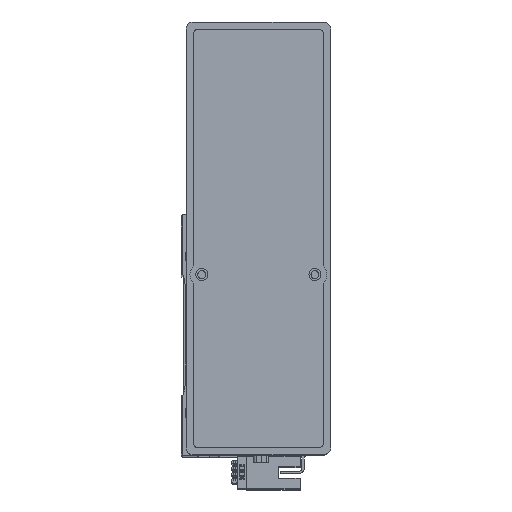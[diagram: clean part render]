
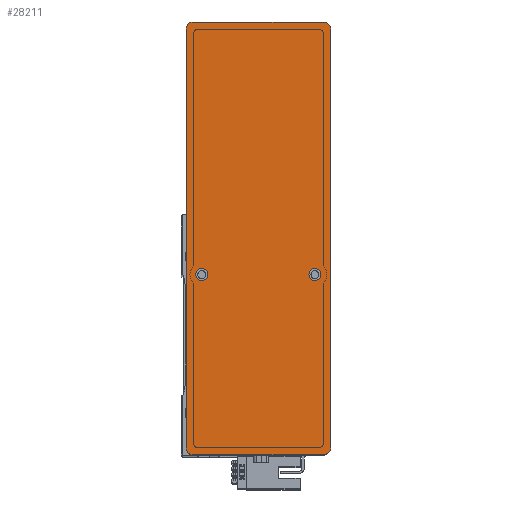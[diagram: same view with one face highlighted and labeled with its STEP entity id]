
A CAD part, top view. The second image highlights one B-rep face of the part: STEP entity #28211.
In plain terms, the highlighted planar face has unit normal (0, 0, 1) as drawn and (0, 0, -1) by its records, which use the part's own axes.
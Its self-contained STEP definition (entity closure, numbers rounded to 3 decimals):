
#87 = LINE ( 'NONE', #1441, #16035 ) ;
#126 = CARTESIAN_POINT ( 'NONE',  ( -90., 27., 0. ) ) ;
#291 = DIRECTION ( 'NONE',  ( 1., 0., 0. ) ) ;
#1441 = CARTESIAN_POINT ( 'NONE',  ( -90., -30., 0. ) ) ;
#1456 = AXIS2_PLACEMENT_3D ( 'NONE', #30111, #11058, #33322 ) ;
#1526 = LINE ( 'NONE', #19490, #17474 ) ;
#1634 = ORIENTED_EDGE ( 'NONE', *, *, #12667, .F. ) ;
#1661 = VERTEX_POINT ( 'NONE', #7129 ) ;
#2254 = EDGE_CURVE ( 'NONE', #1661, #37305, #13057, .T. ) ;
#2427 = CIRCLE ( 'NONE', #36548, 2.5 ) ;
#2452 = CARTESIAN_POINT ( 'NONE',  ( -87., 27., 0. ) ) ;
#2633 = DIRECTION ( 'NONE',  ( -1., 0., 0. ) ) ;
#3128 = EDGE_CURVE ( 'NONE', #3910, #24862, #13108, .T. ) ;
#3139 = ORIENTED_EDGE ( 'NONE', *, *, #23828, .T. ) ;
#3306 = CARTESIAN_POINT ( 'NONE',  ( -15., 23.5, 0. ) ) ;
#3458 = EDGE_CURVE ( 'NONE', #4161, #13841, #11054, .T. ) ;
#3804 = DIRECTION ( 'NONE',  ( 0., 0., -1. ) ) ;
#3910 = VERTEX_POINT ( 'NONE', #38262 ) ;
#4161 = VERTEX_POINT ( 'NONE', #24446 ) ;
#5000 = ORIENTED_EDGE ( 'NONE', *, *, #2254, .T. ) ;
#5467 = ORIENTED_EDGE ( 'NONE', *, *, #3458, .F. ) ;
#5679 = DIRECTION ( 'NONE',  ( 1., 0., 0. ) ) ;
#5893 = CARTESIAN_POINT ( 'NONE',  ( -15., 23.5, 0. ) ) ;
#5955 = EDGE_CURVE ( 'NONE', #14886, #27248, #8333, .T. ) ;
#5990 = FACE_BOUND ( 'NONE', #22273, .T. ) ;
#6170 = CARTESIAN_POINT ( 'NONE',  ( -17.5, 23.5, 0. ) ) ;
#6249 = AXIS2_PLACEMENT_3D ( 'NONE', #32768, #35952, #16937 ) ;
#6313 = CARTESIAN_POINT ( 'NONE',  ( -12.5, 23.5, 0. ) ) ;
#6537 = DIRECTION ( 'NONE',  ( -1., 0., 0. ) ) ;
#7129 = CARTESIAN_POINT ( 'NONE',  ( 90., -27., 0. ) ) ;
#7251 = CARTESIAN_POINT ( 'NONE',  ( 90., 30., 0. ) ) ;
#8333 = CIRCLE ( 'NONE', #18862, 3. ) ;
#8536 = VERTEX_POINT ( 'NONE', #39342 ) ;
#9066 = DIRECTION ( 'NONE',  ( -1., 0., 0. ) ) ;
#9639 = ORIENTED_EDGE ( 'NONE', *, *, #32685, .F. ) ;
#9875 = CARTESIAN_POINT ( 'NONE',  ( -12.5, -23.5, 0. ) ) ;
#10137 = ORIENTED_EDGE ( 'NONE', *, *, #3128, .F. ) ;
#10443 = DIRECTION ( 'NONE',  ( -1., 0., 0. ) ) ;
#10524 = PLANE ( 'NONE',  #6249 ) ;
#11054 = CIRCLE ( 'NONE', #24243, 2.5 ) ;
#11058 = DIRECTION ( 'NONE',  ( 0., 0., -1. ) ) ;
#11263 = EDGE_LOOP ( 'NONE', ( #5467, #20869 ) ) ;
#12228 = EDGE_CURVE ( 'NONE', #27542, #20694, #2427, .T. ) ;
#12667 = EDGE_CURVE ( 'NONE', #14886, #37305, #33122, .T. ) ;
#13057 = CIRCLE ( 'NONE', #19348, 3. ) ;
#13108 = LINE ( 'NONE', #7251, #37519 ) ;
#13472 = AXIS2_PLACEMENT_3D ( 'NONE', #2452, #24711, #5679 ) ;
#13841 = VERTEX_POINT ( 'NONE', #9875 ) ;
#14863 = CARTESIAN_POINT ( 'NONE',  ( 87., -27., 0. ) ) ;
#14886 = VERTEX_POINT ( 'NONE', #30559 ) ;
#16035 = VECTOR ( 'NONE', #30069, 1000. ) ;
#16937 = DIRECTION ( 'NONE',  ( 1., 0., 0. ) ) ;
#17474 = VECTOR ( 'NONE', #22689, 1000. ) ;
#18049 = DIRECTION ( 'NONE',  ( 1., 0., 0. ) ) ;
#18862 = AXIS2_PLACEMENT_3D ( 'NONE', #38453, #19365, #291 ) ;
#19348 = AXIS2_PLACEMENT_3D ( 'NONE', #14863, #37073, #18049 ) ;
#19365 = DIRECTION ( 'NONE',  ( 0., 0., -1. ) ) ;
#19490 = CARTESIAN_POINT ( 'NONE',  ( 90., -30., 0. ) ) ;
#20694 = VERTEX_POINT ( 'NONE', #6170 ) ;
#20829 = ORIENTED_EDGE ( 'NONE', *, *, #12228, .F. ) ;
#20869 = ORIENTED_EDGE ( 'NONE', *, *, #24036, .F. ) ;
#21326 = ORIENTED_EDGE ( 'NONE', *, *, #35854, .F. ) ;
#21703 = DIRECTION ( 'NONE',  ( 0., 0., -1. ) ) ;
#22273 = EDGE_LOOP ( 'NONE', ( #21326, #20829 ) ) ;
#22689 = DIRECTION ( 'NONE',  ( 0., 1., 0. ) ) ;
#22867 = CARTESIAN_POINT ( 'NONE',  ( -15., -23.5, 0. ) ) ;
#23122 = CIRCLE ( 'NONE', #27593, 2.5 ) ;
#23701 = EDGE_CURVE ( 'NONE', #3910, #8536, #29741, .T. ) ;
#23828 = EDGE_CURVE ( 'NONE', #39126, #24862, #31603, .T. ) ;
#24036 = EDGE_CURVE ( 'NONE', #13841, #4161, #23122, .T. ) ;
#24243 = AXIS2_PLACEMENT_3D ( 'NONE', #40803, #21703, #2633 ) ;
#24446 = CARTESIAN_POINT ( 'NONE',  ( -17.5, -23.5, 0. ) ) ;
#24701 = VECTOR ( 'NONE', #31430, 1000. ) ;
#24711 = DIRECTION ( 'NONE',  ( 0., 0., -1. ) ) ;
#24833 = EDGE_LOOP ( 'NONE', ( #38340, #5000, #1634, #28043, #9639, #3139, #10137, #25579 ) ) ;
#24862 = VERTEX_POINT ( 'NONE', #33626 ) ;
#25562 = DIRECTION ( 'NONE',  ( 0., 0., -1. ) ) ;
#25579 = ORIENTED_EDGE ( 'NONE', *, *, #23701, .T. ) ;
#26055 = DIRECTION ( 'NONE',  ( -1., 0., 0. ) ) ;
#27248 = VERTEX_POINT ( 'NONE', #36044 ) ;
#27542 = VERTEX_POINT ( 'NONE', #6313 ) ;
#27593 = AXIS2_PLACEMENT_3D ( 'NONE', #22867, #3804, #26055 ) ;
#28043 = ORIENTED_EDGE ( 'NONE', *, *, #5955, .T. ) ;
#28105 = DIRECTION ( 'NONE',  ( 0., 0., -1. ) ) ;
#28211 = ADVANCED_FACE ( 'NONE', ( #5990, #37811, #30306 ), #10524, .F. ) ;
#29741 = CIRCLE ( 'NONE', #1456, 3. ) ;
#30069 = DIRECTION ( 'NONE',  ( 0., -1., 0. ) ) ;
#30111 = CARTESIAN_POINT ( 'NONE',  ( 87., 27., 0. ) ) ;
#30306 = FACE_OUTER_BOUND ( 'NONE', #24833, .T. ) ;
#30559 = CARTESIAN_POINT ( 'NONE',  ( -87., -30., 0. ) ) ;
#31430 = DIRECTION ( 'NONE',  ( 1., 0., 0. ) ) ;
#31603 = CIRCLE ( 'NONE', #13472, 3. ) ;
#32154 = AXIS2_PLACEMENT_3D ( 'NONE', #3306, #25562, #6537 ) ;
#32685 = EDGE_CURVE ( 'NONE', #39126, #27248, #87, .T. ) ;
#32768 = CARTESIAN_POINT ( 'NONE',  ( 0., 0., 0. ) ) ;
#33025 = EDGE_CURVE ( 'NONE', #1661, #8536, #1526, .T. ) ;
#33122 = LINE ( 'NONE', #34908, #24701 ) ;
#33322 = DIRECTION ( 'NONE',  ( 1., 0., 0. ) ) ;
#33626 = CARTESIAN_POINT ( 'NONE',  ( -87., 30., 0. ) ) ;
#34908 = CARTESIAN_POINT ( 'NONE',  ( 90., -30., 0. ) ) ;
#35854 = EDGE_CURVE ( 'NONE', #20694, #27542, #41228, .T. ) ;
#35952 = DIRECTION ( 'NONE',  ( 0., 0., 1. ) ) ;
#36044 = CARTESIAN_POINT ( 'NONE',  ( -90., -27., 0. ) ) ;
#36548 = AXIS2_PLACEMENT_3D ( 'NONE', #5893, #28105, #9066 ) ;
#37073 = DIRECTION ( 'NONE',  ( 0., 0., -1. ) ) ;
#37305 = VERTEX_POINT ( 'NONE', #39801 ) ;
#37519 = VECTOR ( 'NONE', #10443, 1000. ) ;
#37811 = FACE_BOUND ( 'NONE', #11263, .T. ) ;
#38262 = CARTESIAN_POINT ( 'NONE',  ( 87., 30., 0. ) ) ;
#38340 = ORIENTED_EDGE ( 'NONE', *, *, #33025, .F. ) ;
#38453 = CARTESIAN_POINT ( 'NONE',  ( -87., -27., 0. ) ) ;
#39126 = VERTEX_POINT ( 'NONE', #126 ) ;
#39342 = CARTESIAN_POINT ( 'NONE',  ( 90., 27., 0. ) ) ;
#39801 = CARTESIAN_POINT ( 'NONE',  ( 87., -30., 0. ) ) ;
#40803 = CARTESIAN_POINT ( 'NONE',  ( -15., -23.5, 0. ) ) ;
#41228 = CIRCLE ( 'NONE', #32154, 2.5 ) ;
